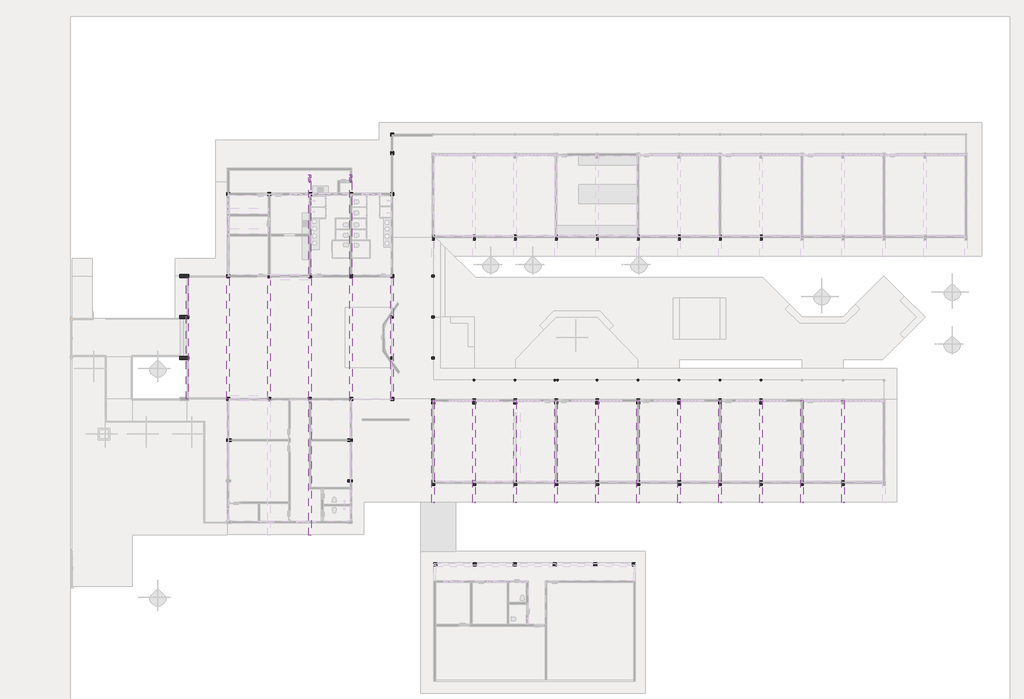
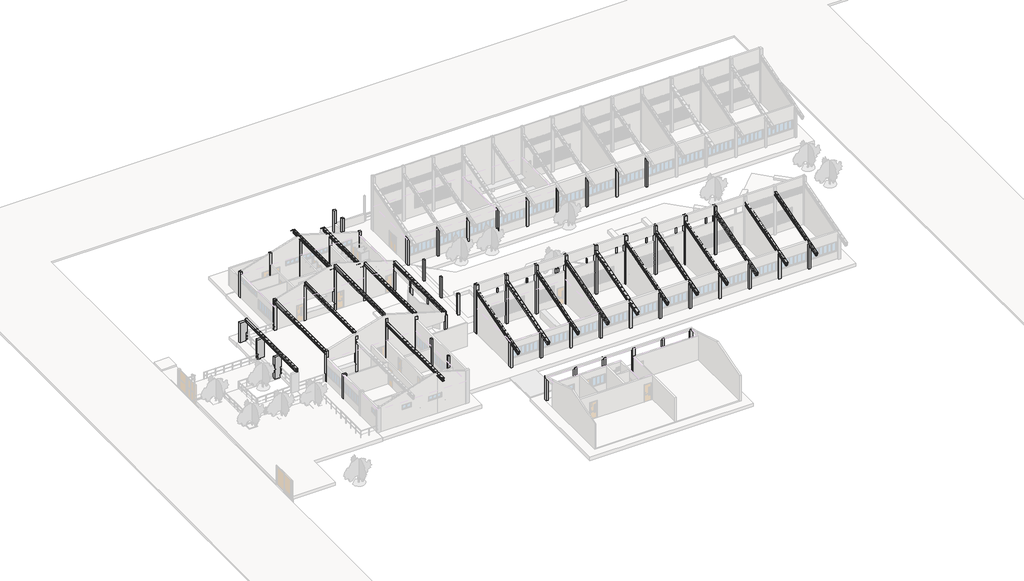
# One storey, part 6 of 12: 72 columns, 20 beams.
"""IFC4 building model written with IfcOpenShell, lengths in millimetres."""

from ifc_helpers import new_model, si_unit, point, frame, frame_2d, origin, origin_with_axes, place, context, project, spatial, polyline, circle_curve, trimmed, segment, composite_curve, outline, extrude, faceted_brep, transform, mapped, element, save
from components import beam_20x40_d718723e, beam_20x40_c263b07b, beam_20x40_c165763c, beam_20x40_8779e05e, beam_20x40_fac3748b, pilar_retangular_20_x_20_cm_aca1a7c0, pilar_retangular_20_x_20_cm_c52c51c3, pilar_retangular_25_x_25_cm_86619940, pilar_retangular_25_x_25_cm_c467fb03, pilar_retangular_25_x_40_cm_2_ca77a530, pilar_retangular_25_x_40_cm_2_35bef809, pilar_retangular_40_x_20_cm_dd6b6704

model = new_model("IFC4")

# Units and contexts
model_context = context("Model", 3, world=origin())
ifc_project = project(units=[si_unit("LENGTHUNIT", "METRE", prefix="MILLI")], contexts=[model_context])

# Site, building, storey
site = spatial("IfcSite", under=ifc_project)
building = spatial("IfcBuilding", under=site)
storey = spatial("IfcBuildingStorey", under=building, Name="Nível 1", Elevation=0.0)

# Beams
placement = place(None, origin())
beam_20x40_shape = beam_20x40_d718723e(model_context)
element("IfcBeam", 1, ObjectType="Viga Treliçada - Igor Ramos.0001 : 20x40", at=placement, inside=storey, context=model_context, shape_type="MappedRepresentation", body=[
    mapped(beam_20x40_shape, transform((-7716.1291731, 22425.9288241, 5839.0), x_axis=(0.0, 1.0, 0.0), y_axis=(-1.0, 0.0, 0.0), z_axis=(0.0, 0.0, 1.0))),
])
element("IfcBeam", 2, ObjectType="Viga Treliçada - Igor Ramos.0001 : 20x40", at=placement, inside=storey, context=model_context, shape_type="MappedRepresentation", body=[
    mapped(beam_20x40_shape, transform((-4216.1291731, 22425.9288241, 4909.0), x_axis=(0.0, 1.0, 0.0), y_axis=(-1.0, 0.0, 0.0), z_axis=(0.0, 0.0, 1.0))),
])
element("IfcBeam", 3, ObjectType="Viga Treliçada - Igor Ramos.0001 : 20x40", at=placement, inside=storey, context=model_context, shape_type="MappedRepresentation", body=[
    mapped(beam_20x40_shape, transform((-716.1291731, 22425.9288241, 3819.0), x_axis=(0.0, 1.0, 0.0), y_axis=(-1.0, 0.0, 0.0), z_axis=(0.0, 0.0, 1.0))),
])
element("IfcBeam", 4, ObjectType="Viga Treliçada - Igor Ramos.0001 : 20x40", at=placement, inside=storey, context=model_context, shape_type="MappedRepresentation", body=[
    mapped(beam_20x40_shape, transform((-11216.1291731, 22425.9288241, 4909.0), x_axis=(0.0, 1.0, 0.0), y_axis=(-1.0, 0.0, 0.0), z_axis=(0.0, 0.0, 1.0))),
])
element("IfcBeam", 5, ObjectType="Viga Treliçada - Igor Ramos.0001 : 20x40", at=placement, inside=storey, context=model_context, shape_type="MappedRepresentation", body=[
    mapped(beam_20x40_shape, transform((-14716.1291731, 22425.9288241, 3819.0), x_axis=(0.0, 1.0, 0.0), y_axis=(-1.0, 0.0, 0.0), z_axis=(0.0, 0.0, 1.0))),
])
element("IfcBeam", 6, ObjectType="Viga Treliçada - Igor Ramos.0001 : 20x40", at=placement, inside=storey, context=model_context, shape_type="MappedRepresentation", body=[
    mapped(beam_20x40_shape, transform((-18191.1845859, 22425.9288241, 2839.0), x_axis=(0.0, 1.0, 0.0), y_axis=(-1.0, 0.0, 0.0), z_axis=(0.0, 0.0, 1.0))),
])
beam_20x40_2_shape = beam_20x40_c263b07b(model_context)
element("IfcBeam", 7, ObjectType="Viga Treliçada - Igor Ramos.0001 : 20x40", at=placement, inside=storey, context=model_context, shape_type="MappedRepresentation", body=[
    mapped(beam_20x40_2_shape, transform((37801.4731397, 11323.066338, 4262.2928974), x_axis=(0.0, 0.9587418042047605, 0.2842783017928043), y_axis=(-1.0, 0.0, 0.0), z_axis=(0.0, -0.28427830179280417, 0.9587418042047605))),
])
element("IfcBeam", 8, ObjectType="Viga Treliçada - Igor Ramos.0001 : 20x40", at=placement, inside=storey, context=model_context, shape_type="MappedRepresentation", body=[
    mapped(beam_20x40_2_shape, transform((34301.4731397, 11323.066338, 4262.2928974), x_axis=(0.0, 0.9587418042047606, 0.28427830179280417), y_axis=(-1.0, 0.0, 0.0), z_axis=(0.0, -0.28427830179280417, 0.9587418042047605))),
])
element("IfcBeam", 9, ObjectType="Viga Treliçada - Igor Ramos.0001 : 20x40", at=placement, inside=storey, context=model_context, shape_type="MappedRepresentation", body=[
    mapped(beam_20x40_2_shape, transform((30801.4731397, 11323.066338, 4262.2928974), x_axis=(0.0, 0.9587418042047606, 0.28427830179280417), y_axis=(-1.0, 0.0, 0.0), z_axis=(0.0, -0.28427830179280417, 0.9587418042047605))),
])
element("IfcBeam", 10, ObjectType="Viga Treliçada - Igor Ramos.0001 : 20x40", at=placement, inside=storey, context=model_context, shape_type="MappedRepresentation", body=[
    mapped(beam_20x40_2_shape, transform((27301.4731397, 11323.066338, 4262.2928974), x_axis=(0.0, 0.9587418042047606, 0.28427830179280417), y_axis=(-1.0, 0.0, 0.0), z_axis=(0.0, -0.28427830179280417, 0.9587418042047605))),
])
element("IfcBeam", 11, ObjectType="Viga Treliçada - Igor Ramos.0001 : 20x40", at=placement, inside=storey, context=model_context, shape_type="MappedRepresentation", body=[
    mapped(beam_20x40_2_shape, transform((23800.883972, 11323.066338, 4262.2928974), x_axis=(0.0, 0.9587418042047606, 0.28427830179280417), y_axis=(-1.0, 0.0, 0.0), z_axis=(0.0, -0.28427830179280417, 0.9587418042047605))),
])
element("IfcBeam", 12, ObjectType="Viga Treliçada - Igor Ramos.0001 : 20x40", at=placement, inside=storey, context=model_context, shape_type="MappedRepresentation", body=[
    mapped(beam_20x40_2_shape, transform((20301.4731397, 11323.066338, 4262.2928974), x_axis=(0.0, 0.9587418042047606, 0.28427830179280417), y_axis=(-1.0, 0.0, 0.0), z_axis=(0.0, -0.28427830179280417, 0.9587418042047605))),
])
element("IfcBeam", 13, ObjectType="Viga Treliçada - Igor Ramos.0001 : 20x40", at=placement, inside=storey, context=model_context, shape_type="MappedRepresentation", body=[
    mapped(beam_20x40_2_shape, transform((16800.883972, 11323.066338, 4262.2928974), x_axis=(0.0, 0.9587418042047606, 0.28427830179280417), y_axis=(-1.0, 0.0, 0.0), z_axis=(0.0, -0.28427830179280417, 0.9587418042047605))),
])
element("IfcBeam", 14, ObjectType="Viga Treliçada - Igor Ramos.0001 : 20x40", at=placement, inside=storey, context=model_context, shape_type="MappedRepresentation", body=[
    mapped(beam_20x40_2_shape, transform((13300.883972, 11323.066338, 4262.2928974), x_axis=(0.0, 0.9587418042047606, 0.28427830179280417), y_axis=(-1.0, 0.0, 0.0), z_axis=(0.0, -0.28427830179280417, 0.9587418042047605))),
])
beam_20x40_3_shape = beam_20x40_c165763c(model_context)
element("IfcBeam", 15, ObjectType="Viga Treliçada - Igor Ramos.0001 : 20x40", at=placement, inside=storey, context=model_context, shape_type="MappedRepresentation", body=[
    mapped(beam_20x40_3_shape, transform((9801.4731397, 11323.066338, 4262.2928974), x_axis=(0.0, 0.9587418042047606, 0.28427830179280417), y_axis=(-1.0, 0.0, 0.0), z_axis=(0.0, -0.28427830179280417, 0.9587418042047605))),
])
element("IfcBeam", 16, ObjectType="Viga Treliçada - Igor Ramos.0001 : 20x40", at=placement, inside=storey, context=model_context, shape_type="MappedRepresentation", body=[
    mapped(beam_20x40_3_shape, transform((6301.4731397, 11323.066338, 4262.2928974), x_axis=(0.0, 0.9587418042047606, 0.28427830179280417), y_axis=(-1.0, 0.0, 0.0), z_axis=(0.0, -0.28427830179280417, 0.9587418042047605))),
])
element("IfcBeam", 17, ObjectType="Viga Treliçada - Igor Ramos.0001 : 20x40", at=placement, inside=storey, context=model_context, shape_type="MappedRepresentation", body=[
    mapped(beam_20x40_3_shape, transform((2801.4731397, 11323.066338, 4262.2928974), x_axis=(0.0, 0.9587418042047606, 0.28427830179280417), y_axis=(-1.0, 0.0, 0.0), z_axis=(0.0, -0.28427830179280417, 0.9587418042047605))),
])
beam_20x40_4_shape = beam_20x40_8779e05e(model_context)
element("IfcBeam", 18, ObjectType="Viga Treliçada - Igor Ramos.0001 : 20x40", at=placement, inside=storey, context=model_context, shape_type="MappedRepresentation", body=[
    mapped(beam_20x40_4_shape, transform((-7715.9938978, 11590.1739256, 5099.0), x_axis=(0.0, 1.0, 0.0), y_axis=(-1.0, 0.0, 0.0), z_axis=(0.0, 0.0, 1.0))),
])
beam_20x40_5_shape = beam_20x40_fac3748b(model_context)
element("IfcBeam", 19, ObjectType="Viga Treliçada - Igor Ramos.0001 : 20x40", at=placement, inside=storey, context=model_context, shape_type="MappedRepresentation", body=[
    mapped(beam_20x40_5_shape, transform((-4228.9138786, 30673.8065057, 4159.0), x_axis=(0.0, 1.0, 0.0), y_axis=(-1.0, 0.0, 0.0), z_axis=(0.0, 0.0, 1.0))),
])
element("IfcBeam", 20, ObjectType="Viga Treliçada - Igor Ramos.0001 : 20x40", at=placement, inside=storey, context=model_context, shape_type="MappedRepresentation", body=[
    mapped(beam_20x40_5_shape, transform((-7727.2049483, 30673.8065057, 5099.0), x_axis=(0.0, 1.0, 0.0), y_axis=(-1.0, 0.0, 0.0), z_axis=(0.0, 0.0, 1.0))),
])

# Columns
element("IfcColumn", 21, ObjectType="Concrete-Round-Column : Pilar concreto cilíndrico", at=placement, inside=storey, context=model_context, shape_type="SweptSolid", body=[
    extrude(outline(composite_curve([segment(trimmed(circle_curve(frame_2d((30801.4731397, 17442.0058221)), 75.0), [point((30726.4731397, 17442.0058221))], [point((30876.4731397, 17442.0058221))], False, "CARTESIAN"), True, "CONTINUOUS"), segment(trimmed(circle_curve(frame_2d((30801.4731397, 17442.0058221)), 75.0), [point((30876.4731397, 17442.0058221))], [point((30726.4731397, 17442.0058221))], False, "CARTESIAN"), True, "CONTINUOUS")], self_intersect=False)), origin_with_axes(), (0.0, 0.0, 1.0), 3887.3),
])
element("IfcColumn", 22, ObjectType="Concrete-Round-Column : Pilar concreto cilíndrico", at=placement, inside=storey, context=model_context, shape_type="SweptSolid", body=[
    extrude(outline(composite_curve([segment(trimmed(circle_curve(frame_2d((27301.4731397, 17442.0058221)), 75.0), [point((27226.4731397, 17442.0058221))], [point((27376.4731397, 17442.0058221))], False, "CARTESIAN"), True, "CONTINUOUS"), segment(trimmed(circle_curve(frame_2d((27301.4731397, 17442.0058221)), 75.0), [point((27376.4731397, 17442.0058221))], [point((27226.4731397, 17442.0058221))], False, "CARTESIAN"), True, "CONTINUOUS")], self_intersect=False)), origin_with_axes(), (0.0, 0.0, 1.0), 3887.3),
])
element("IfcColumn", 23, ObjectType="Concrete-Round-Column : Pilar concreto cilíndrico", at=placement, inside=storey, context=model_context, shape_type="SweptSolid", body=[
    extrude(outline(composite_curve([segment(trimmed(circle_curve(frame_2d((23801.4731397, 17442.0058221)), 75.0), [point((23726.4731397, 17442.0058221))], [point((23876.4731397, 17442.0058221))], False, "CARTESIAN"), True, "CONTINUOUS"), segment(trimmed(circle_curve(frame_2d((23801.4731397, 17442.0058221)), 75.0), [point((23876.4731397, 17442.0058221))], [point((23726.4731397, 17442.0058221))], False, "CARTESIAN"), True, "CONTINUOUS")], self_intersect=False)), origin_with_axes(), (0.0, 0.0, 1.0), 3887.3),
])
element("IfcColumn", 24, ObjectType="Concrete-Round-Column : Pilar concreto cilíndrico", at=placement, inside=storey, context=model_context, shape_type="SweptSolid", body=[
    extrude(outline(composite_curve([segment(trimmed(circle_curve(frame_2d((20301.4731397, 17442.0058221)), 75.0), [point((20226.4731397, 17442.0058221))], [point((20376.4731397, 17442.0058221))], False, "CARTESIAN"), True, "CONTINUOUS"), segment(trimmed(circle_curve(frame_2d((20301.4731397, 17442.0058221)), 75.0), [point((20376.4731397, 17442.0058221))], [point((20226.4731397, 17442.0058221))], False, "CARTESIAN"), True, "CONTINUOUS")], self_intersect=False)), origin_with_axes(), (0.0, 0.0, 1.0), 3887.3),
])
element("IfcColumn", 25, ObjectType="Concrete-Round-Column : Pilar concreto cilíndrico", at=placement, inside=storey, context=model_context, shape_type="SweptSolid", body=[
    extrude(outline(composite_curve([segment(trimmed(circle_curve(frame_2d((16801.4731397, 17442.0058221)), 75.0), [point((16726.4731397, 17442.0058221))], [point((16876.4731397, 17442.0058221))], False, "CARTESIAN"), True, "CONTINUOUS"), segment(trimmed(circle_curve(frame_2d((16801.4731397, 17442.0058221)), 75.0), [point((16876.4731397, 17442.0058221))], [point((16726.4731397, 17442.0058221))], False, "CARTESIAN"), True, "CONTINUOUS")], self_intersect=False)), origin_with_axes(), (0.0, 0.0, 1.0), 3464.9159683),
])
element("IfcColumn", 26, ObjectType="Concrete-Round-Column : Pilar concreto cilíndrico", at=placement, inside=storey, context=model_context, shape_type="SweptSolid", body=[
    extrude(outline(composite_curve([segment(trimmed(circle_curve(frame_2d((13421.4731397, 17439.5058221)), 75.0), [point((13346.4731397, 17439.5058221))], [point((13496.4731397, 17439.5058221))], False, "CARTESIAN"), True, "CONTINUOUS"), segment(trimmed(circle_curve(frame_2d((13421.4731397, 17439.5058221)), 75.0), [point((13496.4731397, 17439.5058221))], [point((13346.4731397, 17439.5058221))], False, "CARTESIAN"), True, "CONTINUOUS")], self_intersect=False)), origin_with_axes(), (0.0, 0.0, 1.0), 3464.9159683),
])
element("IfcColumn", 27, ObjectType="Concrete-Round-Column : Pilar concreto cilíndrico", at=placement, inside=storey, context=model_context, shape_type="SweptSolid", body=[
    extrude(outline(composite_curve([segment(trimmed(circle_curve(frame_2d((13188.9731397, 17437.0058221)), 75.0), [point((13113.9731397, 17437.0058221))], [point((13263.9731397, 17437.0058221))], False, "CARTESIAN"), True, "CONTINUOUS"), segment(trimmed(circle_curve(frame_2d((13188.9731397, 17437.0058221)), 75.0), [point((13263.9731397, 17437.0058221))], [point((13113.9731397, 17437.0058221))], False, "CARTESIAN"), True, "CONTINUOUS")], self_intersect=False)), origin_with_axes(), (0.0, 0.0, 1.0), 3464.9159683),
])
element("IfcColumn", 28, ObjectType="Concrete-Round-Column : Pilar concreto cilíndrico", at=placement, inside=storey, context=model_context, shape_type="SweptSolid", body=[
    extrude(outline(composite_curve([segment(trimmed(circle_curve(frame_2d((9801.4731397, 17442.0058221)), 75.0), [point((9726.4731397, 17442.0058221))], [point((9876.4731397, 17442.0058221))], False, "CARTESIAN"), True, "CONTINUOUS"), segment(trimmed(circle_curve(frame_2d((9801.4731397, 17442.0058221)), 75.0), [point((9876.4731397, 17442.0058221))], [point((9726.4731397, 17442.0058221))], False, "CARTESIAN"), True, "CONTINUOUS")], self_intersect=False)), origin_with_axes(), (0.0, 0.0, 1.0), 3464.9159683),
])
element("IfcColumn", 29, ObjectType="Concrete-Round-Column : Pilar concreto cilíndrico", at=placement, inside=storey, context=model_context, shape_type="SweptSolid", body=[
    extrude(outline(composite_curve([segment(trimmed(circle_curve(frame_2d((6301.4731397, 17442.0058221)), 75.0), [point((6226.4731397, 17442.0058221))], [point((6376.4731397, 17442.0058221))], False, "CARTESIAN"), True, "CONTINUOUS"), segment(trimmed(circle_curve(frame_2d((6301.4731397, 17442.0058221)), 75.0), [point((6376.4731397, 17442.0058221))], [point((6226.4731397, 17442.0058221))], False, "CARTESIAN"), True, "CONTINUOUS")], self_intersect=False)), origin_with_axes(), (0.0, 0.0, 1.0), 3464.9159683),
])
pilar_retangular_20_x_20_cm_shape = pilar_retangular_20_x_20_cm_aca1a7c0(model_context)
element("IfcColumn", 30, ObjectType="Pilar retangular : 20 x 20 cm", at=placement, inside=storey, context=model_context, shape_type="MappedRepresentation", body=[
    mapped(pilar_retangular_20_x_20_cm_shape, transform((-698.5268603, 22831.2351765, 0.0), x_axis=(1.0, 0.0, 0.0), y_axis=(0.0, 1.0, 0.0), z_axis=(0.0, 0.0, 1.0))),
])
element("IfcColumn", 31, ObjectType="Pilar retangular : 20 x 20 cm", at=placement, inside=storey, context=model_context, shape_type="MappedRepresentation", body=[
    mapped(pilar_retangular_20_x_20_cm_shape, transform((-698.5268603, 19331.1797638, 0.0), x_axis=(1.0, 0.0, 0.0), y_axis=(0.0, 1.0, 0.0), z_axis=(0.0, 0.0, 1.0))),
])
pilar_retangular_20_x_20_cm_2_shape = pilar_retangular_20_x_20_cm_c52c51c3(model_context)
element("IfcColumn", 32, ObjectType="Pilar retangular : 20 x 20 cm", at=placement, inside=storey, context=model_context, shape_type="MappedRepresentation", body=[
    mapped(pilar_retangular_20_x_20_cm_2_shape, transform((2801.5285525, 19331.1797638, 0.0), x_axis=(1.0, 0.0, 0.0), y_axis=(0.0, 1.0, 0.0), z_axis=(0.0, 0.0, 1.0))),
])
element("IfcColumn", 33, ObjectType="Pilar retangular : 20 x 20 cm", at=placement, inside=storey, context=model_context, shape_type="MappedRepresentation", body=[
    mapped(pilar_retangular_20_x_20_cm_2_shape, transform((2801.5285525, 22831.1797638, 0.0), x_axis=(1.0, 0.0, 0.0), y_axis=(0.0, 1.0, 0.0), z_axis=(0.0, 0.0, 1.0))),
])
element("IfcColumn", 34, ObjectType="Pilar retangular : 20 x 20 cm", at=placement, inside=storey, context=model_context, shape_type="MappedRepresentation", body=[
    mapped(pilar_retangular_20_x_20_cm_2_shape, transform((2801.5285525, 26331.1797638, 0.0), x_axis=(1.0, 0.0, 0.0), y_axis=(0.0, 1.0, 0.0), z_axis=(0.0, 0.0, 1.0))),
])
element("IfcColumn", 35, ObjectType="Pilar retangular : 25 x 25 cm", at=placement, inside=storey, context=model_context, shape_type="SweptSolid", body=[
    extrude(outline(polyline([(3126.5285525, 1831.1862478), (3126.5285525, 1581.1862478), (2876.5285525, 1581.1862478), (2876.5285525, 1831.1862478), (3126.5285525, 1831.1862478)])), frame((0.0, 0.0, 300.0), z_axis=(0.0, 0.0, 1.0), x_axis=(1.0, 0.0, 0.0)), (0.0, 0.0, 1.0), 2950.0),
])
element("IfcColumn", 36, ObjectType="Pilar retangular : 25 x 25 cm", at=placement, inside=storey, context=model_context, shape_type="SweptSolid", body=[
    extrude(outline(polyline([(6476.4731397, 1831.1797638), (6476.4731397, 1581.1797638), (6226.4731397, 1581.1797638), (6226.4731397, 1831.1797638), (6476.4731397, 1831.1797638)])), frame((0.0, 0.0, 300.0), z_axis=(0.0, 0.0, 1.0), x_axis=(1.0, 0.0, 0.0)), (0.0, 0.0, 1.0), 2950.0),
])
element("IfcColumn", 37, ObjectType="Pilar retangular : 25 x 25 cm", at=placement, inside=storey, context=model_context, shape_type="SweptSolid", body=[
    extrude(outline(polyline([(9886.5285525, 1831.1862478), (9886.5285525, 1581.1862478), (9636.5285525, 1581.1862478), (9636.5285525, 1831.1862478), (9886.5285525, 1831.1862478)])), frame((0.0, 0.0, 300.0), z_axis=(0.0, 0.0, 1.0), x_axis=(1.0, 0.0, 0.0)), (0.0, 0.0, 1.0), 2950.0),
])
element("IfcColumn", 38, ObjectType="Pilar retangular : 25 x 25 cm", at=placement, inside=storey, context=model_context, shape_type="SweptSolid", body=[
    extrude(outline(polyline([(13326.5285525, 1831.1862478), (13326.5285525, 1581.1862478), (13076.5285525, 1581.1862478), (13076.5285525, 1831.1862478), (13326.5285525, 1831.1862478)])), frame((0.0, 0.0, 300.0), z_axis=(0.0, 0.0, 1.0), x_axis=(1.0, 0.0, 0.0)), (0.0, 0.0, 1.0), 2950.0),
])
element("IfcColumn", 39, ObjectType="Pilar retangular : 25 x 25 cm", at=placement, inside=storey, context=model_context, shape_type="SweptSolid", body=[
    extrude(outline(polyline([(16766.5285525, 1831.1862478), (16766.5285525, 1581.1862478), (16516.5285525, 1581.1862478), (16516.5285525, 1831.1862478), (16766.5285525, 1831.1862478)])), frame((0.0, 0.0, 300.0), z_axis=(0.0, 0.0, 1.0), x_axis=(1.0, 0.0, 0.0)), (0.0, 0.0, 1.0), 2950.0),
])
element("IfcColumn", 40, ObjectType="Pilar retangular : 25 x 25 cm", at=placement, inside=storey, context=model_context, shape_type="SweptSolid", body=[
    extrude(outline(polyline([(20076.5285525, 1831.1862478), (20076.5285525, 1581.1862478), (19826.5285525, 1581.1862478), (19826.5285525, 1831.1862478), (20076.5285525, 1831.1862478)])), frame((0.0, 0.0, 300.0), z_axis=(0.0, 0.0, 1.0), x_axis=(1.0, 0.0, 0.0)), (0.0, 0.0, 1.0), 2950.0),
])
element("IfcColumn", 41, ObjectType="Pilar retangular : 25 x 25 cm", at=placement, inside=storey, context=model_context, shape_type="Brep", body=[
    faceted_brep([(-573.4714475, 26456.1862478, 3630.0), (-823.4714475, 26456.1862478, 3630.0), (-823.4714475, 26350.3088684, 3630.0), (-823.4714475, 26256.1862478, 3630.0), (-823.4714475, 26206.1862478, 3630.0), (-573.4714475, 26206.1862478, 3630.0), (-573.4714475, 26456.1862478, 300.0), (-573.4714475, 26206.1862478, 300.0), (-823.4714475, 26206.1862478, 300.0), (-823.4714475, 26256.1862478, 300.0), (-823.4714475, 26406.1862478, 300.0), (-823.4714475, 26456.1862478, 300.0)], [[[0, 1, 2, 3, 4, 5]], [[6, 7, 8, 9, 10, 11]], [[1, 0, 6, 11]], [[4, 3, 2, 1, 11, 10, 9, 8]], [[5, 4, 8, 7]], [[0, 5, 7, 6]]]),
])
element("IfcColumn", 42, ObjectType="Pilar retangular : 25 x 25 cm", at=placement, inside=storey, context=model_context, shape_type="Brep", body=[
    faceted_brep([(-4073.4714475, 26456.1862478, 4700.0), (-4323.4714475, 26456.1862478, 4700.0), (-4323.4714475, 26350.3088684, 4700.0), (-4323.4714475, 26256.1862478, 4700.0), (-4323.4714475, 26206.1862478, 4700.0), (-4073.4714475, 26206.1862478, 4700.0), (-4073.4714475, 26256.1862478, 4700.0), (-4073.4714475, 26350.3088684, 4700.0), (-4073.4714475, 26456.1862478, 300.0), (-4073.4714475, 26406.1862478, 300.0), (-4073.4714475, 26256.1862478, 300.0), (-4073.4714475, 26206.1862478, 300.0), (-4323.4714475, 26206.1862478, 300.0), (-4323.4714475, 26256.1862478, 300.0), (-4323.4714475, 26406.1862478, 300.0), (-4323.4714475, 26456.1862478, 300.0)], [[[0, 1, 2, 3, 4, 5, 6, 7]], [[8, 9, 10, 11, 12, 13, 14, 15]], [[1, 0, 8, 15]], [[4, 3, 2, 1, 15, 14, 13, 12]], [[5, 4, 12, 11]], [[0, 7, 6, 5, 11, 10, 9, 8]]]),
])
element("IfcColumn", 43, ObjectType="Pilar retangular : 25 x 25 cm", at=placement, inside=storey, context=model_context, shape_type="Brep", body=[
    faceted_brep([(-7573.4714475, 26456.1862478, 5650.0), (-7823.4714475, 26456.1862478, 5650.0), (-7823.4714475, 26206.1862478, 5650.0), (-7573.4714475, 26206.1862478, 5650.0), (-7573.4714475, 26256.1862478, 5650.0), (-7573.4714475, 26350.3088684, 5650.0), (-7573.4714475, 26456.1862478, 300.0), (-7573.4714475, 26406.1862478, 300.0), (-7573.4714475, 26256.1862478, 300.0), (-7573.4714475, 26206.1862478, 300.0), (-7823.4714475, 26206.1862478, 300.0), (-7823.4714475, 26256.1862478, 300.0), (-7823.4714475, 26406.1862478, 300.0), (-7823.4714475, 26456.1862478, 300.0)], [[[0, 1, 2, 3, 4, 5]], [[6, 7, 8, 9, 10, 11, 12, 13]], [[1, 0, 6, 13]], [[2, 1, 13, 12, 11, 10]], [[3, 2, 10, 9]], [[0, 5, 4, 3, 9, 8, 7, 6]]]),
])
element("IfcColumn", 44, ObjectType="Pilar retangular : 25 x 25 cm", at=placement, inside=storey, context=model_context, shape_type="Brep", body=[
    faceted_brep([(-11073.4714475, 26456.1862478, 4700.0), (-11323.4714475, 26456.1862478, 4700.0), (-11323.4714475, 26350.3088684, 4700.0), (-11323.4714475, 26256.1862478, 4700.0), (-11323.4714475, 26206.1862478, 4700.0), (-11073.4714475, 26206.1862478, 4700.0), (-11073.4714475, 26456.1862478, 300.0), (-11073.4714475, 26406.1862478, 300.0), (-11073.4714475, 26256.1862478, 300.0), (-11073.4714475, 26206.1862478, 300.0), (-11323.4714475, 26206.1862478, 300.0), (-11323.4714475, 26256.1862478, 300.0), (-11323.4714475, 26406.1862478, 300.0), (-11323.4714475, 26456.1862478, 300.0)], [[[0, 1, 2, 3, 4, 5]], [[6, 7, 8, 9, 10, 11, 12, 13]], [[1, 0, 6, 13]], [[4, 3, 2, 1, 13, 12, 11, 10]], [[5, 4, 10, 9]], [[0, 5, 9, 8, 7, 6]]]),
])
element("IfcColumn", 45, ObjectType="Pilar retangular : 25 x 25 cm", at=placement, inside=storey, context=model_context, shape_type="Brep", body=[
    faceted_brep([(-14573.4714475, 26456.1862478, 4100.0), (-14823.4714475, 26456.1862478, 4100.0), (-14823.4714475, 26206.1862478, 4100.0), (-14573.4714475, 26206.1862478, 4100.0), (-14573.4714475, 26256.1862478, 4100.0), (-14573.4714475, 26350.3088684, 4100.0), (-14573.4714475, 26456.1862478, 300.0), (-14573.4714475, 26406.1862478, 300.0), (-14573.4714475, 26256.1862478, 300.0), (-14573.4714475, 26206.1862478, 300.0), (-14823.4714475, 26206.1862478, 300.0), (-14823.4714475, 26456.1862478, 300.0)], [[[0, 1, 2, 3, 4, 5]], [[6, 7, 8, 9, 10, 11]], [[1, 0, 6, 11]], [[2, 1, 11, 10]], [[3, 2, 10, 9]], [[0, 5, 4, 3, 9, 8, 7, 6]]]),
])
element("IfcColumn", 46, ObjectType="Pilar retangular : 25 x 25 cm", at=placement, inside=storey, context=model_context, shape_type="Brep", body=[
    faceted_brep([(-14573.5268603, 15953.5059011, 4100.0), (-14823.5268603, 15953.5059011, 4100.0), (-14823.5268603, 15703.5059011, 4100.0), (-14573.5268603, 15703.5059011, 4100.0), (-14573.5268603, 15953.5059011, 300.0), (-14573.5268603, 15896.0481484, 300.0), (-14573.5268603, 15746.0481484, 300.0), (-14573.5268603, 15703.5059011, 300.0), (-14643.4946316, 15703.5059011, 300.0), (-14793.4946316, 15703.5059011, 300.0), (-14823.5268603, 15703.5059011, 300.0), (-14823.5268603, 15953.5059011, 300.0)], [[[0, 1, 2, 3]], [[4, 5, 6, 7, 8, 9, 10, 11]], [[1, 0, 4, 11]], [[2, 1, 11, 10]], [[3, 2, 10, 9, 8, 7]], [[0, 3, 7, 6, 5, 4]]]),
])
element("IfcColumn", 47, ObjectType="Pilar retangular : 25 x 25 cm", at=placement, inside=storey, context=model_context, shape_type="Brep", body=[
    faceted_brep([(-11073.5268603, 15956.130835, 4700.0), (-11323.5268603, 15956.130835, 4700.0), (-11323.5268603, 15706.130835, 4700.0), (-11073.5268603, 15706.130835, 4700.0), (-11073.5268603, 15746.0481484, 4700.0), (-11073.5268603, 15896.0481484, 4700.0), (-11073.5268603, 15956.130835, 300.0), (-11073.5268603, 15896.0481484, 300.0), (-11073.5268603, 15746.0481484, 300.0), (-11073.5268603, 15706.130835, 300.0), (-11323.5268603, 15706.130835, 300.0), (-11323.5268603, 15746.0481484, 300.0), (-11323.5268603, 15896.0481484, 300.0), (-11323.5268603, 15956.130835, 300.0)], [[[0, 1, 2, 3, 4, 5]], [[6, 7, 8, 9, 10, 11, 12, 13]], [[1, 0, 6, 13]], [[2, 1, 13, 12, 11, 10]], [[3, 2, 10, 9]], [[0, 5, 4, 3, 9, 8, 7, 6]]]),
])
element("IfcColumn", 48, ObjectType="Pilar retangular : 25 x 25 cm", at=placement, inside=storey, context=model_context, shape_type="Brep", body=[
    faceted_brep([(-7590.9938978, 15952.3778449, 5650.0), (-7840.9938978, 15952.3778449, 5650.0), (-7840.9938978, 15896.0481484, 5650.0), (-7840.9938978, 15746.0481484, 5650.0), (-7840.9938978, 15702.3778449, 5650.0), (-7590.9938978, 15702.3778449, 5650.0), (-7590.9938978, 15746.0481484, 5650.0), (-7590.9938978, 15896.0481484, 5650.0), (-7590.9938978, 15952.3778449, 300.0), (-7590.9938978, 15896.0481484, 300.0), (-7590.9938978, 15746.0481484, 300.0), (-7590.9938978, 15702.3778449, 300.0), (-7638.3111843, 15702.3778449, 300.0), (-7788.3111843, 15702.3778449, 300.0), (-7840.9938978, 15702.3778449, 300.0), (-7840.9938978, 15746.0481484, 300.0), (-7840.9938978, 15896.0481484, 300.0), (-7840.9938978, 15952.3778449, 300.0)], [[[0, 1, 2, 3, 4, 5, 6, 7]], [[8, 9, 10, 11, 12, 13, 14, 15, 16, 17]], [[1, 0, 8, 17]], [[4, 3, 2, 1, 17, 16, 15, 14]], [[5, 4, 14, 13, 12, 11]], [[0, 7, 6, 5, 11, 10, 9, 8]]]),
])
element("IfcColumn", 49, ObjectType="Pilar retangular : 25 x 25 cm", at=placement, inside=storey, context=model_context, shape_type="Brep", body=[
    faceted_brep([(-4073.5268603, 15956.1797638, 4700.0), (-4323.5268603, 15956.1797638, 4700.0), (-4323.5268603, 15896.0481484, 4700.0), (-4323.5268603, 15746.0481484, 4700.0), (-4323.5268603, 15706.1797638, 4700.0), (-4073.5268603, 15706.1797638, 4700.0), (-4073.5268603, 15956.1797638, 300.0), (-4073.5268603, 15706.1797638, 300.0), (-4138.3111843, 15706.1797638, 300.0), (-4288.3111843, 15706.1797638, 300.0), (-4323.5268603, 15706.1797638, 300.0), (-4323.5268603, 15746.0481484, 300.0), (-4323.5268603, 15896.0481484, 300.0), (-4323.5268603, 15956.1797638, 300.0)], [[[0, 1, 2, 3, 4, 5]], [[6, 7, 8, 9, 10, 11, 12, 13]], [[1, 0, 6, 13]], [[4, 3, 2, 1, 13, 12, 11, 10]], [[5, 4, 10, 9, 8, 7]], [[0, 5, 7, 6]]]),
])
element("IfcColumn", 50, ObjectType="Pilar retangular : 25 x 25 cm", at=placement, inside=storey, context=model_context, shape_type="SweptSolid", body=[
    extrude(outline(polyline([(-4073.4714475, 33456.1797638), (-4073.4714475, 33206.1797638), (-4323.4714475, 33206.1797638), (-4323.4714475, 33456.1797638), (-4073.4714475, 33456.1797638)])), frame((0.0, 0.0, 300.0), z_axis=(0.0, 0.0, 1.0), x_axis=(1.0, 0.0, 0.0)), (0.0, 0.0, 1.0), 3670.0),
])
element("IfcColumn", 51, ObjectType="Pilar retangular : 25 x 25 cm", at=placement, inside=storey, context=model_context, shape_type="SweptSolid", body=[
    extrude(outline(polyline([(-573.5268603, 33456.1797638), (-573.5268603, 33206.1797638), (-823.5268603, 33206.1797638), (-823.5268603, 33456.1797638), (-573.5268603, 33456.1797638)])), frame((0.0, 0.0, 300.0), z_axis=(0.0, 0.0, 1.0), x_axis=(1.0, 0.0, 0.0)), (0.0, 0.0, 1.0), 3100.0),
])
element("IfcColumn", 52, ObjectType="Pilar retangular : 25 x 25 cm", at=placement, inside=storey, context=model_context, shape_type="SweptSolid", body=[
    extrude(outline(polyline([(-7571.7625172, 33456.1797638), (-7571.7625172, 33206.1797638), (-7821.7625172, 33206.1797638), (-7821.7625172, 33456.1797638), (-7571.7625172, 33456.1797638)])), frame((0.0, 0.0, 300.0), z_axis=(0.0, 0.0, 1.0), x_axis=(1.0, 0.0, 0.0)), (0.0, 0.0, 1.0), 4600.0),
])
element("IfcColumn", 53, ObjectType="Pilar retangular : 25 x 25 cm", at=placement, inside=storey, context=model_context, shape_type="SweptSolid", body=[
    extrude(outline(polyline([(-11073.5268603, 33456.1797638), (-11073.5268603, 33206.1797638), (-11323.5268603, 33206.1797638), (-11323.5268603, 33456.1797638), (-11073.5268603, 33456.1797638)])), frame((0.0, 0.0, 300.0), z_axis=(0.0, 0.0, 1.0), x_axis=(1.0, 0.0, 0.0)), (0.0, 0.0, 1.0), 4100.0),
])
element("IfcColumn", 54, ObjectType="Pilar retangular : 25 x 25 cm", at=placement, inside=storey, context=model_context, shape_type="SweptSolid", body=[
    extrude(outline(polyline([(-14573.5268603, 33456.1797638), (-14573.5268603, 33206.1797638), (-14823.5268603, 33206.1797638), (-14823.5268603, 33456.1797638), (-14573.5268603, 33456.1797638)])), origin_with_axes(), (0.0, 0.0, 1.0), 3300.0),
])
element("IfcColumn", 55, ObjectType="Pilar retangular : 25 x 25 cm", at=placement, inside=storey, context=model_context, shape_type="SweptSolid", body=[
    extrude(outline(polyline([(-573.5242901, 15956.1797638), (-573.5242901, 15706.1797638), (-823.5242901, 15706.1797638), (-823.5242901, 15956.1797638), (-573.5242901, 15956.1797638)])), frame((0.0, 0.0, 300.0), z_axis=(0.0, 0.0, 1.0), x_axis=(1.0, 0.0, 0.0)), (0.0, 0.0, 1.0), 3330.0),
])
pilar_retangular_25_x_25_cm_shape = pilar_retangular_25_x_25_cm_86619940(model_context)
element("IfcColumn", 56, ObjectType="Pilar retangular : 25 x 25 cm", at=placement, inside=storey, context=model_context, shape_type="MappedRepresentation", body=[
    mapped(pilar_retangular_25_x_25_cm_shape, transform((-698.5268603, 38431.1797638, 0.0), x_axis=(1.0, 0.0, 0.0), y_axis=(0.0, 1.0, 0.0), z_axis=(0.0, 0.0, 1.0))),
])
pilar_retangular_25_x_25_cm_2_shape = pilar_retangular_25_x_25_cm_c467fb03(model_context)
element("IfcColumn", 57, ObjectType="Pilar retangular : 25 x 25 cm", at=placement, inside=storey, context=model_context, shape_type="MappedRepresentation", body=[
    mapped(pilar_retangular_25_x_25_cm_2_shape, transform((-698.5268603, 36831.1862478, 0.0), x_axis=(1.0, 0.0, 0.0), y_axis=(0.0, 1.0, 0.0), z_axis=(0.0, 0.0, 1.0))),
])
pilar_retangular_25_x_40_cm_2_shape = pilar_retangular_25_x_40_cm_2_ca77a530(model_context)
element("IfcColumn", 58, ObjectType="Pilar retangular : 25 x 40 cm 2", at=placement, inside=storey, context=model_context, shape_type="MappedRepresentation", body=[
    mapped(pilar_retangular_25_x_40_cm_2_shape, transform((9801.4731397, 15622.0058221, 0.0), x_axis=(1.0, 0.0, 0.0), y_axis=(0.0, 1.0, 0.0), z_axis=(0.0, 0.0, 1.0))),
])
element("IfcColumn", 59, ObjectType="Pilar retangular : 25 x 40 cm 2", at=placement, inside=storey, context=model_context, shape_type="MappedRepresentation", body=[
    mapped(pilar_retangular_25_x_40_cm_2_shape, transform((6301.4731397, 15622.0058221, 0.0), x_axis=(1.0, 0.0, 0.0), y_axis=(0.0, 1.0, 0.0), z_axis=(0.0, 0.0, 1.0))),
])
element("IfcColumn", 60, ObjectType="Pilar retangular : 25 x 40 cm 2", at=placement, inside=storey, context=model_context, shape_type="MappedRepresentation", body=[
    mapped(pilar_retangular_25_x_40_cm_2_shape, transform((13300.883972, 15621.8006221, 0.0), x_axis=(1.0, 0.0, 0.0), y_axis=(0.0, 1.0, 0.0), z_axis=(0.0, 0.0, 1.0))),
])
element("IfcColumn", 61, ObjectType="Pilar retangular : 25 x 40 cm 2", at=placement, inside=storey, context=model_context, shape_type="MappedRepresentation", body=[
    mapped(pilar_retangular_25_x_40_cm_2_shape, transform((16800.883972, 15621.8006221, 0.0), x_axis=(1.0, 0.0, 0.0), y_axis=(0.0, 1.0, 0.0), z_axis=(0.0, 0.0, 1.0))),
])
element("IfcColumn", 62, ObjectType="Pilar retangular : 25 x 40 cm 2", at=placement, inside=storey, context=model_context, shape_type="MappedRepresentation", body=[
    mapped(pilar_retangular_25_x_40_cm_2_shape, transform((20301.4731397, 15621.8006221, 0.0), x_axis=(1.0, 0.0, 0.0), y_axis=(0.0, 1.0, 0.0), z_axis=(0.0, 0.0, 1.0))),
])
element("IfcColumn", 63, ObjectType="Pilar retangular : 25 x 40 cm 2", at=placement, inside=storey, context=model_context, shape_type="MappedRepresentation", body=[
    mapped(pilar_retangular_25_x_40_cm_2_shape, transform((23800.883972, 15621.8006221, 0.0), x_axis=(1.0, 0.0, 0.0), y_axis=(0.0, 1.0, 0.0), z_axis=(0.0, 0.0, 1.0))),
])
element("IfcColumn", 64, ObjectType="Pilar retangular : 25 x 40 cm 2", at=placement, inside=storey, context=model_context, shape_type="MappedRepresentation", body=[
    mapped(pilar_retangular_25_x_40_cm_2_shape, transform((27301.4731397, 15621.8006221, 0.0), x_axis=(1.0, 0.0, 0.0), y_axis=(0.0, 1.0, 0.0), z_axis=(0.0, 0.0, 1.0))),
])
element("IfcColumn", 65, ObjectType="Pilar retangular : 25 x 40 cm 2", at=placement, inside=storey, context=model_context, shape_type="MappedRepresentation", body=[
    mapped(pilar_retangular_25_x_40_cm_2_shape, transform((30801.4731397, 15621.8006221, 0.0), x_axis=(1.0, 0.0, 0.0), y_axis=(0.0, 1.0, 0.0), z_axis=(0.0, 0.0, 1.0))),
])
element("IfcColumn", 66, ObjectType="Pilar retangular : 25 x 40 cm 2", at=placement, inside=storey, context=model_context, shape_type="MappedRepresentation", body=[
    mapped(pilar_retangular_25_x_40_cm_2_shape, transform((2801.4731397, 15622.0058221, 0.0), x_axis=(1.0, 0.0, 0.0), y_axis=(0.0, 1.0, 0.0), z_axis=(0.0, 0.0, 1.0))),
])
pilar_retangular_25_x_40_cm_2_2_shape = pilar_retangular_25_x_40_cm_2_35bef809(model_context)
element("IfcColumn", 67, ObjectType="Pilar retangular : 25 x 40 cm 2", at=placement, inside=storey, context=model_context, shape_type="MappedRepresentation", body=[
    mapped(pilar_retangular_25_x_40_cm_2_2_shape, transform((6301.4731397, 8631.1797638, 0.0), x_axis=(1.0, 0.0, 0.0), y_axis=(0.0, 1.0, 0.0), z_axis=(0.0, 0.0, 1.0))),
])
element("IfcColumn", 68, ObjectType="Pilar retangular : 25 x 40 cm 2", at=placement, inside=storey, context=model_context, shape_type="MappedRepresentation", body=[
    mapped(pilar_retangular_25_x_40_cm_2_2_shape, transform((9801.4731397, 8631.1797638, 0.0), x_axis=(1.0, 0.0, 0.0), y_axis=(0.0, 1.0, 0.0), z_axis=(0.0, 0.0, 1.0))),
])
element("IfcColumn", 69, ObjectType="Pilar retangular : 25 x 40 cm 2", at=placement, inside=storey, context=model_context, shape_type="MappedRepresentation", body=[
    mapped(pilar_retangular_25_x_40_cm_2_2_shape, transform((13300.6583268, 8630.7093313, 0.0), x_axis=(1.0, 0.0, 0.0), y_axis=(0.0, 1.0, 0.0), z_axis=(0.0, 0.0, 1.0))),
])
element("IfcColumn", 70, ObjectType="Pilar retangular : 25 x 40 cm 2", at=placement, inside=storey, context=model_context, shape_type="MappedRepresentation", body=[
    mapped(pilar_retangular_25_x_40_cm_2_2_shape, transform((16801.4731397, 8630.7093313, 0.0), x_axis=(1.0, 0.0, 0.0), y_axis=(0.0, 1.0, 0.0), z_axis=(0.0, 0.0, 1.0))),
])
element("IfcColumn", 71, ObjectType="Pilar retangular : 25 x 40 cm 2", at=placement, inside=storey, context=model_context, shape_type="MappedRepresentation", body=[
    mapped(pilar_retangular_25_x_40_cm_2_2_shape, transform((20301.4731397, 8630.7093313, 0.0), x_axis=(1.0, 0.0, 0.0), y_axis=(0.0, 1.0, 0.0), z_axis=(0.0, 0.0, 1.0))),
])
element("IfcColumn", 72, ObjectType="Pilar retangular : 25 x 40 cm 2", at=placement, inside=storey, context=model_context, shape_type="MappedRepresentation", body=[
    mapped(pilar_retangular_25_x_40_cm_2_2_shape, transform((23801.4731397, 8630.7093313, 0.0), x_axis=(1.0, 0.0, 0.0), y_axis=(0.0, 1.0, 0.0), z_axis=(0.0, 0.0, 1.0))),
])
element("IfcColumn", 73, ObjectType="Pilar retangular : 25 x 40 cm 2", at=placement, inside=storey, context=model_context, shape_type="MappedRepresentation", body=[
    mapped(pilar_retangular_25_x_40_cm_2_2_shape, transform((27301.4731397, 8630.7093313, 0.0), x_axis=(1.0, 0.0, 0.0), y_axis=(0.0, 1.0, 0.0), z_axis=(0.0, 0.0, 1.0))),
])
element("IfcColumn", 74, ObjectType="Pilar retangular : 25 x 40 cm 2", at=placement, inside=storey, context=model_context, shape_type="MappedRepresentation", body=[
    mapped(pilar_retangular_25_x_40_cm_2_2_shape, transform((30801.4731397, 8630.7093313, 0.0), x_axis=(1.0, 0.0, 0.0), y_axis=(0.0, 1.0, 0.0), z_axis=(0.0, 0.0, 1.0))),
])
element("IfcColumn", 75, ObjectType="Pilar retangular : 25 x 40 cm 2", at=placement, inside=storey, context=model_context, shape_type="MappedRepresentation", body=[
    mapped(pilar_retangular_25_x_40_cm_2_2_shape, transform((34301.4731397, 8630.7093313, 0.0), x_axis=(1.0, 0.0, 0.0), y_axis=(0.0, 1.0, 0.0), z_axis=(0.0, 0.0, 1.0))),
])
element("IfcColumn", 76, ObjectType="Pilar retangular : 25 x 40 cm 2", at=placement, inside=storey, context=model_context, shape_type="MappedRepresentation", body=[
    mapped(pilar_retangular_25_x_40_cm_2_2_shape, transform((37801.4731397, 8630.7093313, 0.0), x_axis=(1.0, 0.0, 0.0), y_axis=(0.0, 1.0, 0.0), z_axis=(0.0, 0.0, 1.0))),
])
element("IfcColumn", 77, ObjectType="Pilar retangular : 25 x 40 cm 2", at=placement, inside=storey, context=model_context, shape_type="MappedRepresentation", body=[
    mapped(pilar_retangular_25_x_40_cm_2_2_shape, transform((2801.4731397, 8631.1797638, 0.0), x_axis=(1.0, 0.0, 0.0), y_axis=(0.0, 1.0, 0.0), z_axis=(0.0, 0.0, 1.0))),
])
element("IfcColumn", 78, ObjectType="Pilar retangular : 40 x 20 cm", at=placement, inside=storey, context=model_context, shape_type="Brep", body=[
    faceted_brep([(-14431.997433, 12421.0481484, 3300.0), (-14643.4946316, 12421.0481484, 3300.0), (-14793.4946316, 12421.0481484, 3300.0), (-14831.997433, 12421.0481484, 3300.0), (-14831.997433, 12221.0481484, 3300.0), (-14793.4946316, 12221.0481484, 3300.0), (-14643.4946316, 12221.0481484, 3300.0), (-14431.997433, 12221.0481484, 3300.0), (-14431.997433, 12421.0481484, 300.0), (-14431.997433, 12221.0481484, 300.0), (-14643.4946316, 12221.0481484, 300.0), (-14793.4946316, 12221.0481484, 300.0), (-14831.997433, 12221.0481484, 300.0), (-14831.997433, 12421.0481484, 300.0), (-14793.4946316, 12421.0481484, 300.0), (-14643.4946316, 12421.0481484, 300.0)], [[[0, 1, 2, 3, 4, 5, 6, 7]], [[8, 9, 10, 11, 12, 13, 14, 15]], [[3, 2, 1, 0, 8, 15, 14, 13]], [[4, 3, 13, 12]], [[7, 6, 5, 4, 12, 11, 10, 9]], [[0, 7, 9, 8]]]),
])
element("IfcColumn", 79, ObjectType="Pilar retangular : 40 x 20 cm", at=placement, inside=storey, context=model_context, shape_type="Brep", body=[
    faceted_brep([(-4082.1826756, 8927.5037043, 4100.0), (-4138.3111843, 8927.5037043, 4100.0), (-4288.3111843, 8927.5037043, 4100.0), (-4482.1826756, 8927.5037043, 4100.0), (-4482.1826756, 8727.5037043, 4100.0), (-4288.3111843, 8727.5037043, 4100.0), (-4138.3111843, 8727.5037043, 4100.0), (-4082.1826756, 8727.5037043, 4100.0), (-4082.1826756, 8927.5037043, 300.0), (-4082.1826756, 8727.5037043, 300.0), (-4138.3111843, 8727.5037043, 300.0), (-4288.3111843, 8727.5037043, 300.0), (-4482.1826756, 8727.5037043, 300.0), (-4482.1826756, 8927.5037043, 300.0), (-4288.3111843, 8927.5037043, 300.0), (-4138.3111843, 8927.5037043, 300.0)], [[[0, 1, 2, 3, 4, 5, 6, 7]], [[8, 9, 10, 11, 12, 13, 14, 15]], [[3, 2, 1, 0, 8, 15, 14, 13]], [[4, 3, 13, 12]], [[7, 6, 5, 4, 12, 11, 10, 9]], [[0, 7, 9, 8]]]),
])
element("IfcColumn", 80, ObjectType="Pilar retangular : 40 x 20 cm", at=placement, inside=storey, context=model_context, shape_type="Brep", body=[
    faceted_brep([(-4088.366597, 12419.8342458, 4100.0), (-4138.3111843, 12419.8342458, 4100.0), (-4288.3111843, 12419.8342458, 4100.0), (-4488.366597, 12419.8342458, 4100.0), (-4488.366597, 12219.8342458, 4100.0), (-4288.3111843, 12219.8342458, 4100.0), (-4138.3111843, 12219.8342458, 4100.0), (-4088.366597, 12219.8342458, 4100.0), (-4088.366597, 12419.8342458, 300.0), (-4088.366597, 12219.8342458, 300.0), (-4138.3111843, 12219.8342458, 300.0), (-4288.3111843, 12219.8342458, 300.0), (-4488.366597, 12219.8342458, 300.0), (-4488.366597, 12419.8342458, 300.0), (-4288.3111843, 12419.8342458, 300.0), (-4138.3111843, 12419.8342458, 300.0)], [[[0, 1, 2, 3, 4, 5, 6, 7]], [[8, 9, 10, 11, 12, 13, 14, 15]], [[3, 2, 1, 0, 8, 15, 14, 13]], [[4, 3, 13, 12]], [[7, 6, 5, 4, 12, 11, 10, 9]], [[0, 7, 9, 8]]]),
])
pilar_retangular_40_x_20_cm_shape = pilar_retangular_40_x_20_cm_dd6b6704(model_context)
element("IfcColumn", 81, ObjectType="Pilar retangular : 40 x 20 cm", at=placement, inside=storey, context=model_context, shape_type="MappedRepresentation", body=[
    mapped(pilar_retangular_40_x_20_cm_shape, transform((30801.4731397, 29631.1797638, 0.0), x_axis=(0.0, -1.0, 0.0), y_axis=(1.0, 0.0, 0.0), z_axis=(0.0, 0.0, 1.0))),
])
element("IfcColumn", 82, ObjectType="Pilar retangular : 40 x 20 cm", at=placement, inside=storey, context=model_context, shape_type="MappedRepresentation", body=[
    mapped(pilar_retangular_40_x_20_cm_shape, transform((27301.4731397, 29631.1797638, 0.0), x_axis=(0.0, -1.0, 0.0), y_axis=(1.0, 0.0, 0.0), z_axis=(0.0, 0.0, 1.0))),
])
element("IfcColumn", 83, ObjectType="Pilar retangular : 40 x 20 cm", at=placement, inside=storey, context=model_context, shape_type="MappedRepresentation", body=[
    mapped(pilar_retangular_40_x_20_cm_shape, transform((23801.4731397, 29631.1797638, 0.0), x_axis=(0.0, -1.0, 0.0), y_axis=(1.0, 0.0, 0.0), z_axis=(0.0, 0.0, 1.0))),
])
element("IfcColumn", 84, ObjectType="Pilar retangular : 40 x 20 cm", at=placement, inside=storey, context=model_context, shape_type="MappedRepresentation", body=[
    mapped(pilar_retangular_40_x_20_cm_shape, transform((20301.4731397, 29631.1797638, 0.0), x_axis=(0.0, -1.0, 0.0), y_axis=(1.0, 0.0, 0.0), z_axis=(0.0, 0.0, 1.0))),
])
element("IfcColumn", 85, ObjectType="Pilar retangular : 40 x 20 cm", at=placement, inside=storey, context=model_context, shape_type="MappedRepresentation", body=[
    mapped(pilar_retangular_40_x_20_cm_shape, transform((16801.4731397, 29631.1797638, 0.0), x_axis=(0.0, -1.0, 0.0), y_axis=(1.0, 0.0, 0.0), z_axis=(0.0, 0.0, 1.0))),
])
element("IfcColumn", 86, ObjectType="Pilar retangular : 40 x 20 cm", at=placement, inside=storey, context=model_context, shape_type="MappedRepresentation", body=[
    mapped(pilar_retangular_40_x_20_cm_shape, transform((13301.4731397, 29631.1797638, 0.0), x_axis=(0.0, -1.0, 0.0), y_axis=(1.0, 0.0, 0.0), z_axis=(0.0, 0.0, 1.0))),
])
element("IfcColumn", 87, ObjectType="Pilar retangular : 40 x 20 cm", at=placement, inside=storey, context=model_context, shape_type="MappedRepresentation", body=[
    mapped(pilar_retangular_40_x_20_cm_shape, transform((9801.4731397, 29631.1797638, 0.0), x_axis=(0.0, -1.0, 0.0), y_axis=(1.0, 0.0, 0.0), z_axis=(0.0, 0.0, 1.0))),
])
element("IfcColumn", 88, ObjectType="Pilar retangular : 40 x 20 cm", at=placement, inside=storey, context=model_context, shape_type="MappedRepresentation", body=[
    mapped(pilar_retangular_40_x_20_cm_shape, transform((6301.4731397, 29631.1797638, 0.0), x_axis=(0.0, -1.0, 0.0), y_axis=(1.0, 0.0, 0.0), z_axis=(0.0, 0.0, 1.0))),
])
element("IfcColumn", 89, ObjectType="Pilar retangular : 40 x 20 cm", at=placement, inside=storey, context=model_context, shape_type="MappedRepresentation", body=[
    mapped(pilar_retangular_40_x_20_cm_shape, transform((2801.4731397, 29631.1797638, 0.0), x_axis=(0.0, -1.0, 0.0), y_axis=(1.0, 0.0, 0.0), z_axis=(0.0, 0.0, 1.0))),
])
element("IfcColumn", 90, ObjectType="Pilar retangular : 80 x 25 cm", at=placement, inside=storey, context=model_context, shape_type="SweptSolid", body=[
    extrude(outline(polyline([(2650.0, -18048.5268603), (2650.0, -18848.5268603), (200.0, -18848.5268603), (200.0, -18198.4714475), (300.0, -18198.4714475), (300.0, -18048.5268603), (2650.0, -18048.5268603)])), frame((0.0, 22706.1862478, 0.0), z_axis=(0.0, 1.0, 0.0), x_axis=(0.0, 0.0, 1.0)), (0.0, 0.0, 1.0), 250.0),
    extrude(outline(polyline([(-18048.5268603, 22956.1862478), (-18048.5268603, 22706.1862478), (-18198.4714475, 22706.1862478), (-18198.4714475, 22956.1862478), (-18048.5268603, 22956.1862478)])), frame((0.0, 0.0, -100.0), z_axis=(0.0, 0.0, 1.0), x_axis=(1.0, 0.0, 0.0)), (0.0, 0.0, 1.0), 100.0),
])
element("IfcColumn", 91, ObjectType="Pilar retangular : 80 x 25 cm", at=placement, inside=storey, context=model_context, shape_type="SweptSolid", body=[
    extrude(outline(polyline([(2650.0, -18048.5268603), (2650.0, -18848.5268603), (-100.0, -18848.5268603), (-100.0, -18048.5268603), (0.0, -18048.5268603), (0.0, -18198.4714475), (300.0, -18198.4714475), (300.0, -18048.5268603), (2650.0, -18048.5268603)])), frame((0.0, 19206.1797638, 0.0), z_axis=(0.0, 1.0, 0.0), x_axis=(0.0, 0.0, 1.0)), (0.0, 0.0, 1.0), 250.0),
])
element("IfcColumn", 92, ObjectType="Pilar retangular : 80 x 25 cm", at=placement, inside=storey, context=model_context, shape_type="Brep", body=[
    faceted_brep([(-18048.5268603, 26456.1797638, 2650.0), (-18848.5268603, 26456.1797638, 2650.0), (-18848.5268603, 26206.1797638, 2650.0), (-18048.5268603, 26206.1797638, 2650.0), (-18048.5268603, 26456.1797638, 100.0), (-18848.5268603, 26456.1797638, 100.0), (-18848.5268603, 26331.1862478, 100.0), (-18848.5268603, 26331.1862478, 200.0), (-18848.5268603, 26206.1797638, 200.0), (-18198.4714475, 26206.1797638, 200.0), (-18198.4714475, 26206.1797638, 300.0), (-18048.5268603, 26206.1797638, 300.0), (-18048.5268603, 26331.1862478, 300.0), (-18048.5268603, 26331.1862478, 100.0), (-18198.4714475, 26331.1862478, 300.0), (-18198.4714475, 26331.1862478, 200.0)], [[[0, 1, 2, 3]], [[1, 0, 4, 5]], [[2, 1, 5, 6, 7, 8]], [[3, 2, 8, 9, 10, 11]], [[0, 3, 11, 12, 13, 4]], [[10, 14, 12, 11]], [[14, 10, 9, 15]], [[12, 14, 15, 7, 6, 13]], [[5, 4, 13, 6]], [[7, 15, 9, 8]]]),
    faceted_brep([(-18048.5268603, 26331.1862478, -100.0), (-18048.5268603, 26206.1797638, -100.0), (-18198.4714475, 26206.1797638, -100.0), (-18198.4714475, 26331.1862478, -100.0), (-18198.4714475, 26206.1797638, 0.0), (-18048.5268603, 26206.1797638, 0.0), (-18048.5268603, 26331.1862478, 0.0), (-18198.4714475, 26331.1862478, 0.0)], [[[0, 1, 2, 3]], [[4, 5, 6, 7]], [[6, 0, 3, 7]], [[5, 1, 0, 6]], [[3, 2, 4, 7]], [[1, 5, 4, 2]]]),
])

save(model, "model.ifc")
